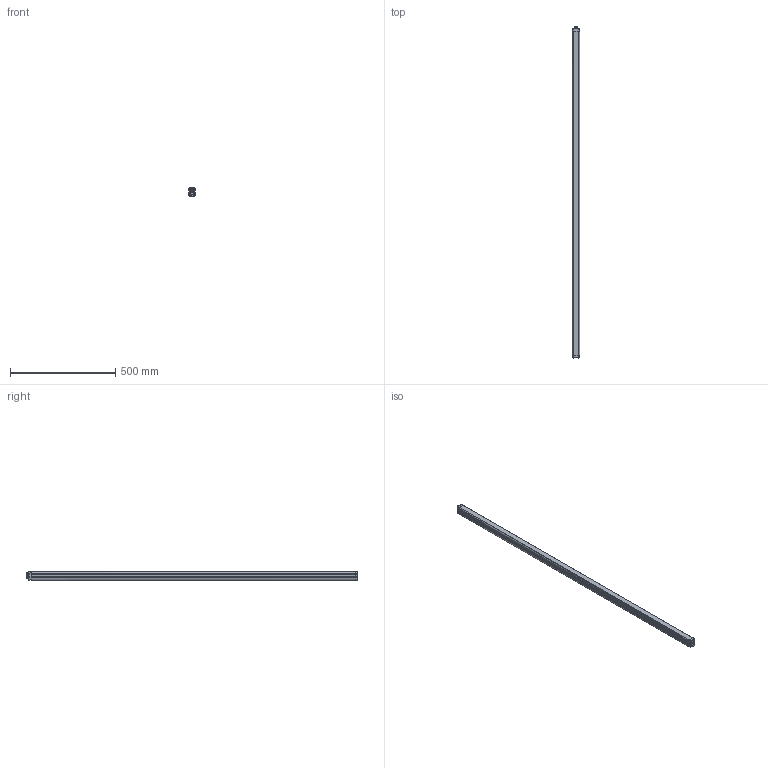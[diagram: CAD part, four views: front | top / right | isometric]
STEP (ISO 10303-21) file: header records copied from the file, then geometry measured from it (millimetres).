
FILE_DESCRIPTION((''),'2;1');
FILE_NAME('2009975','2012-01-30T',('rink'),(''),'PRO/ENGINEER BY PARAMETRIC TECHNOLOGY CORPORATION, 2011040','PRO/ENGINEER BY PARAMETRIC TECHNOLOGY CORPORATION, 2011040','');
FILE_SCHEMA(('AUTOMOTIVE_DESIGN_CC2 { 1 2 10303 214 -1 1 5 2 }'));
Products named in the file (1): 2009975
Bounding box: 35 x 1579.58 x 40 mm (x, y, z)
Volume: 1942980.8 mm3; surface area: 319431.8 mm2
Topology: 1 solids, 1 shells, 2508 faces, 6692 edges, 4044 vertices
Faces by surface type: cylinder 686, extrusion 526, plane 484, bspline 356, torus 258, sphere 166, cone 32
Entity records: 189268 total; most frequent: CARTESIAN_POINT 114233, ORIENTED_EDGE 13036, DIRECTION 8997, PRESENTATION_STYLE_ASSIGNMENT 6525, STYLED_ITEM 6520, CURVE_STYLE 6519, EDGE_CURVE 6518, VERTEX_POINT 4044
